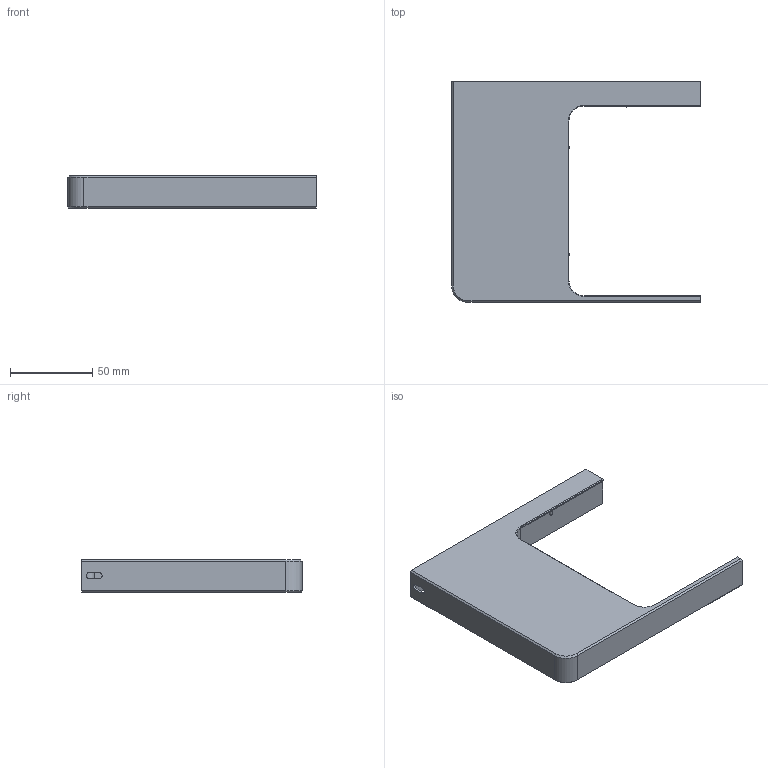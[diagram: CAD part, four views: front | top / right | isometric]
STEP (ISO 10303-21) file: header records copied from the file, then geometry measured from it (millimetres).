
FILE_DESCRIPTION(('Open CASCADE Model'),'2;1');
FILE_NAME('top_FL','2026-11-19T00:45:41',('Author'),('Open CASCADE'), 'Open CASCADE STEP processor 8.0','build123d','Unknown');
FILE_SCHEMA(('AUTOMOTIVE_DESIGN { 1 0 10303 214 1 1 1 1 }'));
Length unit declared in the file: millimetre
Products named in the file (1): top_FL
Bounding box: 151.68 x 134.53 x 19.75 mm (x, y, z)
Volume: 69280.3 mm3; surface area: 80113 mm2
Topology: 1 solids, 1 shells, 277 faces, 699 edges, 464 vertices
Faces by surface type: plane 229, cylinder 40, cone 8
Full cylindrical faces by diameter (mm): 4.2 x9, 7.5 x1
Entity records: 17082 total; most frequent: CARTESIAN_POINT 3622, DIRECTION 2250, LINE 1458, VECTOR 1458, ORIENTED_EDGE 1398, PCURVE 1398, DEFINITIONAL_REPRESENTATION 1398, EDGE_CURVE 699
